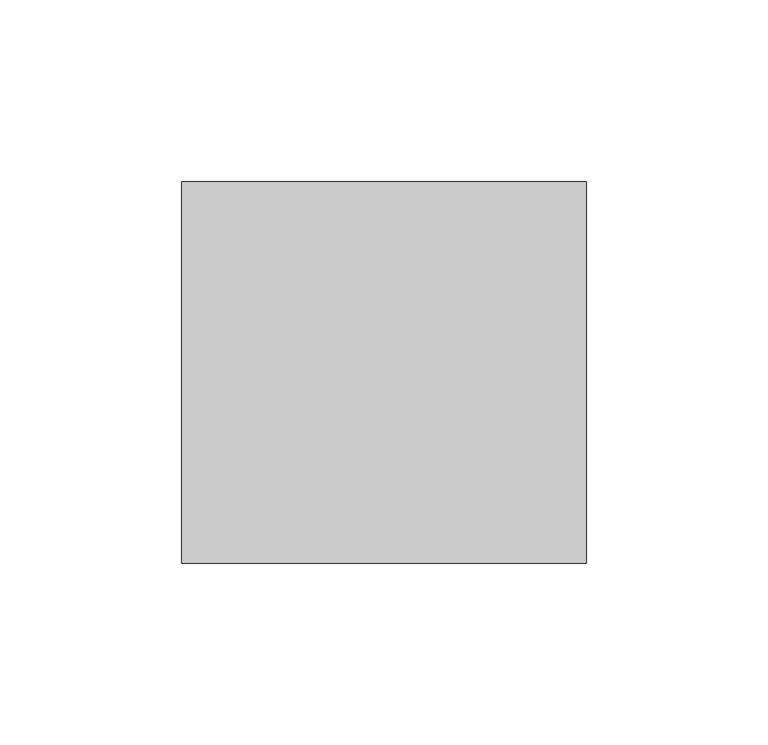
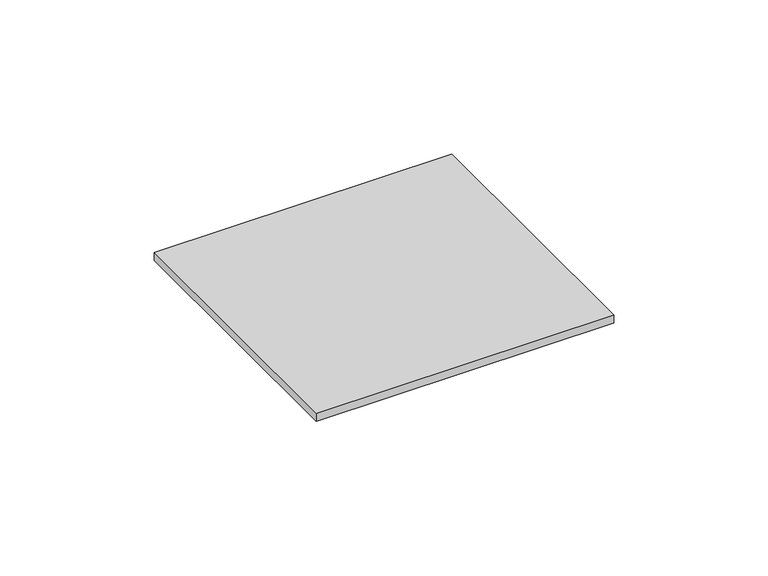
"""IFC4 building model written with IfcOpenShell, lengths in millimetres: proxy geometry, Device_Plate-Evolution_Poke_Thru_8AT_Series-Wiremold : Center Mount-Crestron."""

from ifc_helpers import new_model, si_unit, origin, origin_with_axes, place, context, project, spatial, polyline, outline, extrude, source, transform, mapped, element, save


def electrical_fixtures_66dcdde5(model_context):
    return source(origin(), model_context, "Body", "SweptSolid", [
        extrude(outline(polyline([(55.5625, 52.3875), (55.5625, -52.3875), (-55.5625, -52.3875), (-55.5625, 52.3875), (55.5625, 52.3875)])), origin_with_axes(), (0.0, 0.0, 1.0), 3.175),
    ])


if __name__ == "__main__":
    model = new_model("IFC4")
    model_context = context("Model", 3, world=origin())
    ifc_project = project(units=[si_unit("LENGTHUNIT", "METRE", prefix="MILLI")], contexts=[model_context])
    site = spatial("IfcSite", under=ifc_project)
    building = spatial("IfcBuilding", under=site)
    placement = place(None, origin())
    electrical_fixtures_shape = electrical_fixtures_66dcdde5(model_context)
    element("IfcBuildingElementProxy", 1, Name="Device_Plate-Evolution_Poke_Thru_8AT_Series-Wiremold : Center Mount-Crestron", ObjectType="Device_Plate-Evolution_Poke_Thru_8AT_Series-Wiremold : Center Mount-Crestron", at=placement, inside=building, context=model_context, shape_type="MappedRepresentation", body=[
        mapped(electrical_fixtures_shape, transform((0.0, 0.0, 0.0), x_axis=(1.0, 0.0, 0.0), y_axis=(0.0, 1.0, 0.0), z_axis=(0.0, 0.0, 1.0))),
    ])
    save(model, "model.ifc")
